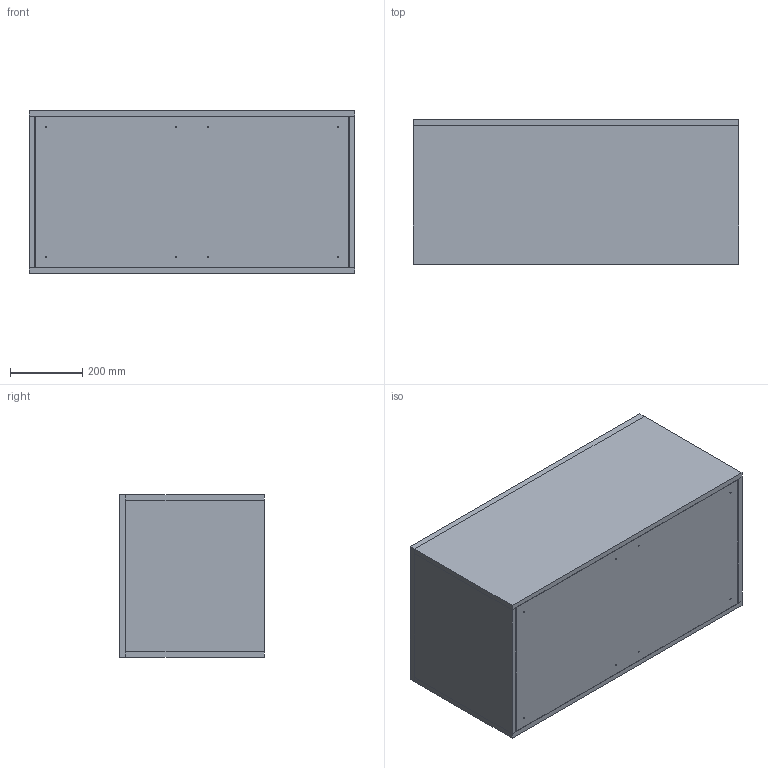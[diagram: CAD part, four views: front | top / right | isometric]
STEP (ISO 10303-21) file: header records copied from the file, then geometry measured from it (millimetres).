
FILE_DESCRIPTION(/* description */ (''),/* implementation_level */ '2;1');
FILE_NAME(/* name */ 'Low Cabinet ',/* time_stamp */ '2026-06-15T16:49:13+12:00',/* author */ (''),/* organization */ (''),/* preprocessor_version */ 'ST-DEVELOPER v19.2',/* originating_system */ 'Rhino 8.31',/* authorisation */ '');
FILE_SCHEMA (('CONFIG_CONTROL_DESIGN'));
Length unit declared in the file: millimetre
Products named in the file (3): Document; 900 - 4 SKINNY; 900 - 3
Bounding box: 900 x 400 x 450 mm (x, y, z)
Volume: 30686509 mm3; surface area: 4102144.8 mm2
Topology: 12 solids, 12 shells, 321 faces, 851 edges, 576 vertices
Faces by surface type: plane 189, cylinder 120, bspline 12
Entity records: 9671 total; most frequent: CARTESIAN_POINT 3123, ORIENTED_EDGE 1566, EDGE_CURVE 783, DIRECTION 751, AXIS2_PLACEMENT_3D 521, VERTEX_POINT 510, B_SPLINE_CURVE_WITH_KNOTS 392, EDGE_LOOP 345
